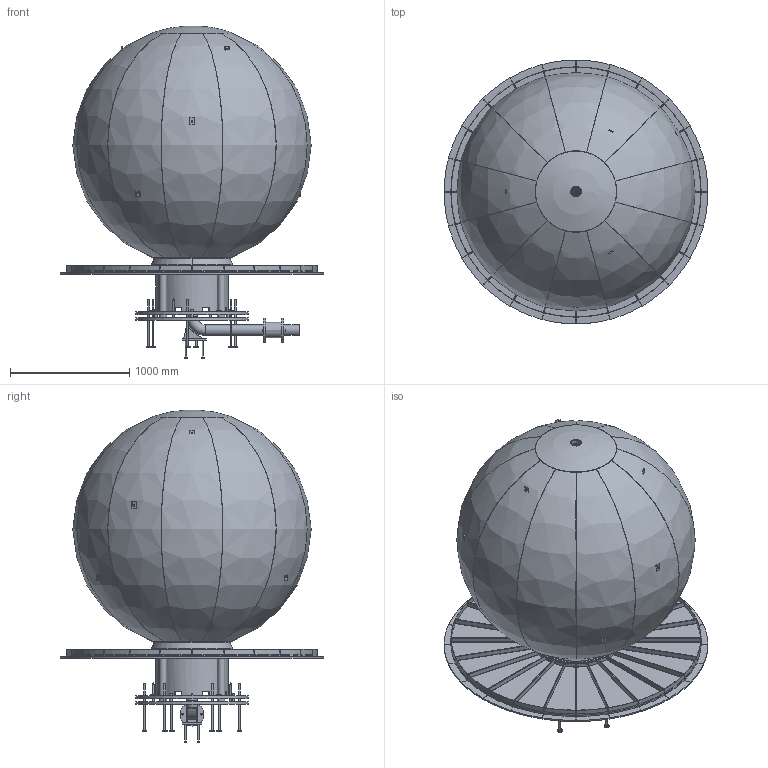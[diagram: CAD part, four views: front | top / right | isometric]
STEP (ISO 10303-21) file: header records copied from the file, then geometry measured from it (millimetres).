
FILE_DESCRIPTION(('Open CASCADE Model'),'2;1');
FILE_NAME('Open CASCADE Shape Model','2026-09-07T11:14:25',('Author'),( 'Open CASCADE'),'Open CASCADE STEP processor 7.9','Open CASCADE 7.9' ,'Unknown');
FILE_SCHEMA(('AUTOMOTIVE_DESIGN { 1 0 10303 214 1 1 1 1 }'));
Length unit declared in the file: millimetre
Products named in the file (91): SPA-Fountain-ASSEMBLY; P-01a_01; P-01a_02; P-01a_03; P-01a_04; P-01a_05; P-01a_06; P-01a_07; P-01a_08; P-01a_09; P-01a_10; P-01a_11; P-01a_12; P-01b_01; P-01c_01; P-02_01; P-03_01; P-04_01; P-05_01; P-06_01; P-06_02; P-06_03; P-06_04; P-06_05; P-06_06; P-07a_01; P-07a_02; P-07b_01; P-07b_02; P-07b_03; P-08_01; P-08b_01; P-16_01; P-09a_01; P-09b_01; P-09c_01; P-09d_01; P-09e_01; P-10_01; P-11_01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
Assembly tree (90 placements, depth 2):
  SPA-Fountain-ASSEMBLY
    P-01a_01
    P-01a_02
    P-01a_03
    P-01a_04
    P-01a_05
    P-01a_06
    P-01a_07
    P-01a_08
    P-01a_09
    P-01a_10
    P-01a_11
    P-01a_12
    P-01b_01
    P-01c_01
    P-02_01
    P-03_01
    P-04_01
    P-05_01
    P-06_01
    P-06_02
    P-06_03
    P-06_04
    P-06_05
    P-06_06
    P-07a_01
    P-07a_02
    P-07b_01
    P-07b_02
    P-07b_03
    P-08_01
    P-08b_01
    P-16_01
    P-09a_01
    P-09b_01
    P-09c_01
    P-09d_01
    P-09e_01
    P-10_01
    P-11_01
    P-11_02
    P-11_03
    P-11_04
    P-11_05
    P-11_06
    P-11_07
    P-11_08
    P-11_09
    P-11_10
    P-11_11
    P-11_12
    P-11_13
    P-11_14
    P-11_15
    P-11_16
    P-11_17
    P-11_18
    P-11_19
    P-11_20
    P-11_21
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Bounding box: 2214 x 2214 x 2786.14 mm (x, y, z)
Volume: 151037014 mm3; surface area: 44919485.8 mm2
Topology: 127 solids, 127 shells, 2412 faces, 5889 edges, 3788 vertices
Faces by surface type: plane 1869, cylinder 472, cone 36, sphere 33, torus 2
Full cylindrical faces by diameter (mm): 5 x85, 6.8 x49, 8.4 x4, 10 x11, 11 x4, 12 x9, 14 x1, 16 x16, 16.5 x1, 17 x6, 17.5 x4, 20 x6, 24 x4, 40 x10, 53.9 x4, 60.3 x4, 75 x4, 77 x1, 78 x1, 78.9 x1, 80 x4, 82 x2, 82.8 x6, 88.9 x6, 90 x5, 96 x1, 109.9 x1, 110 x4, 130 x1, 140 x1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
Entity records: 155080 total; most frequent: CARTESIAN_POINT 31758, DIRECTION 23130, LINE 15025, VECTOR 15025, ORIENTED_EDGE 11874, PCURVE 11778, DEFINITIONAL_REPRESENTATION 11778, EDGE_CURVE 5889
